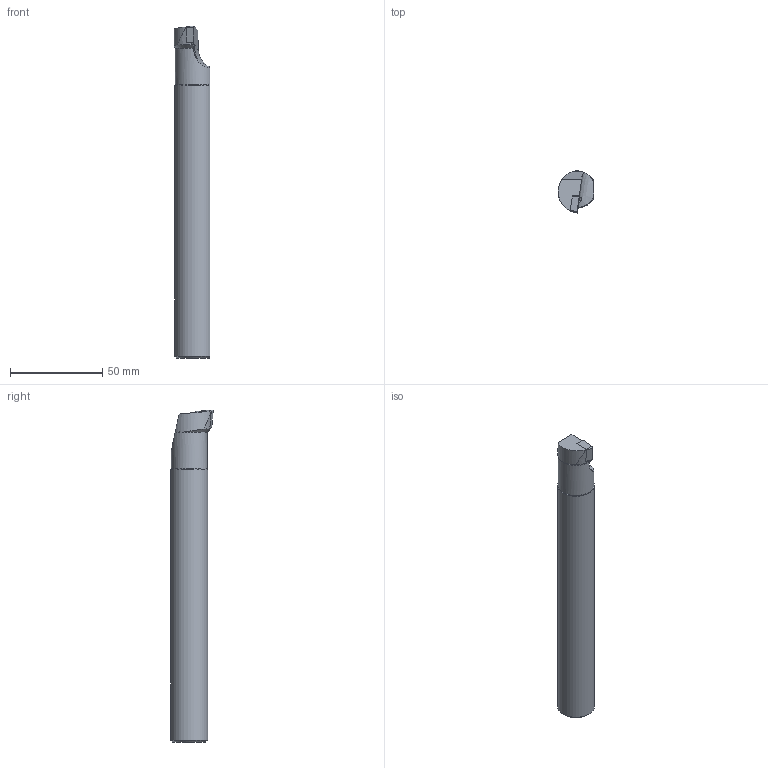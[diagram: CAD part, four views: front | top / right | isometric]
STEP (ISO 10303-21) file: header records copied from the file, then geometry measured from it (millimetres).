
FILE_DESCRIPTION(/* description */ (''),/* implementation_level */ '2;1');
FILE_NAME(/* name */ 'A20Q-SCLCR-09-HAAS.stp',/* time_stamp */ '2021-09-29T09:23:09+09:00',/* author */ (''),/* organization */ (''),/* preprocessor_version */ 'ST-DEVELOPER v16.7',/* originating_system */ 'SIEMENS PLM Software NX 1946',/* authorisation */ '');
FILE_SCHEMA (('AUTOMOTIVE_DESIGN { 1 0 10303 214 3 1 1 1 }'));
Length unit declared in the file: millimetre
Products named in the file (1): user0130CD5E65or
Bounding box: 19.39 x 22.93 x 179.96 mm (x, y, z)
Volume: 49766.3 mm3; surface area: 14255.5 mm2
Topology: 2 solids, 2 shells, 26 faces, 64 edges, 42 vertices
Faces by surface type: plane 12, cone 8, cylinder 5, bspline 1
Full cylindrical faces by diameter (mm): 2.5 x1, 5 x1
Entity records: 963 total; most frequent: CARTESIAN_POINT 253, ORIENTED_EDGE 122, DIRECTION 122, EDGE_CURVE 61, AXIS2_PLACEMENT_3D 48, VERTEX_POINT 41, EDGE_LOOP 30, LINE 26
